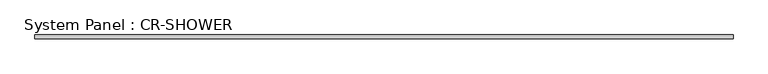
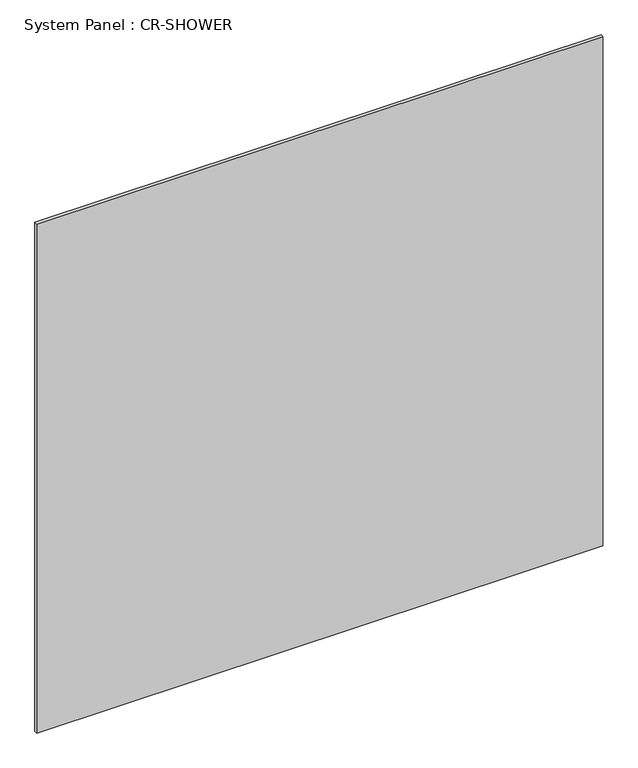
"""IFC4 building model written with IfcOpenShell, lengths in millimetres: plate geometry, System Panel : CR-SHOWER."""

from ifc_helpers import new_model, si_unit, origin, origin_with_axes, place, context, project, spatial, polyline, outline, extrude, source, transform, mapped, element, save


def system_panel_cr_shower_cd40b9b4(model_context):
    return source(origin(), model_context, "Body", "SweptSolid", [
        extrude(outline(polyline([(1183.7399648, -0.05), (-1183.7399648, -0.05), (-1183.7399648, 12.45), (1183.7399648, 12.45), (1183.7399648, -0.05)])), origin_with_axes(), (0.0, 0.0, 1.0), 2250.0),
    ])


if __name__ == "__main__":
    model = new_model("IFC4")
    model_context = context("Model", 3, world=origin())
    ifc_project = project(units=[si_unit("LENGTHUNIT", "METRE", prefix="MILLI")], contexts=[model_context])
    site = spatial("IfcSite", under=ifc_project)
    building = spatial("IfcBuilding", under=site)
    placement = place(None, origin())
    system_panel_cr_shower_shape = system_panel_cr_shower_cd40b9b4(model_context)
    element("IfcPlate", 1, ObjectType="System Panel : CR-SHOWER", at=placement, inside=building, context=model_context, shape_type="MappedRepresentation", body=[
        mapped(system_panel_cr_shower_shape, transform((0.0, 0.0, 0.0), x_axis=(1.0, 0.0, 0.0), y_axis=(0.0, 1.0, 0.0), z_axis=(0.0, 0.0, 1.0))),
    ])
    save(model, "model.ifc")
